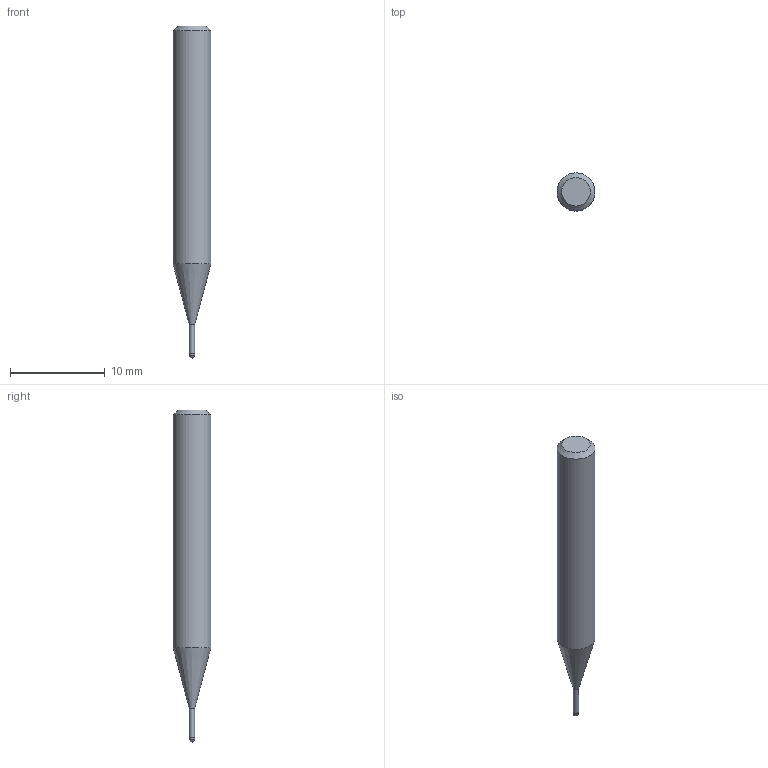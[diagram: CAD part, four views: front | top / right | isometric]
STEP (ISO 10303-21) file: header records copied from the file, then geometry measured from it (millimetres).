
FILE_DESCRIPTION((''),'2;1');
FILE_NAME('C:\Users\nsx150\AppData\Local\Temp\Mastercam 2021\QT8KEW0Y7J\TEMP.step','2021-04-23T11:20:53',(''),(''),'STEP Write','Mastercam 2021 ... CNC Software, Inc.','');
FILE_SCHEMA(('AUTOMOTIVE_DESIGN'));
Length unit declared in the file: millimetre
Products named in the file (1): None
Bounding box: 4 x 4 x 35 mm (x, y, z)
Volume: 345.8 mm3; surface area: 378.1 mm2
Topology: 2 solids, 2 shells, 9 faces, 14 edges, 8 vertices
Faces by surface type: plane 3, cylinder 3, cone 2, sphere 1
Full cylindrical faces by diameter (mm): 0.56 x1, 0.6 x1, 4 x1
Entity records: 211 total; most frequent: DIRECTION 36, CARTESIAN_POINT 25, AXIS2_PLACEMENT_3D 18, ORIENTED_EDGE 14, EDGE_LOOP 14, STYLED_ITEM 12, ADVANCED_FACE 9, FACE_BOUND 8
